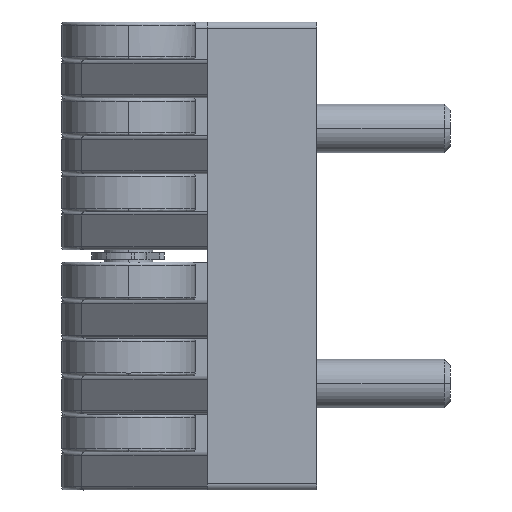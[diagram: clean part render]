
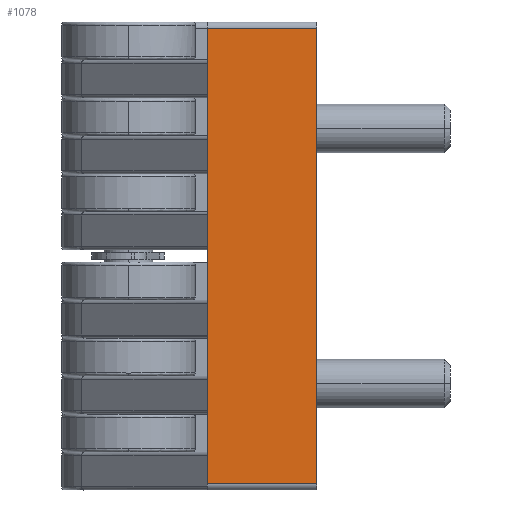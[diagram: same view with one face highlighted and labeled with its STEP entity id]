
A CAD part, left-side view. The second image highlights one B-rep face of the part: STEP entity #1078.
In plain terms, the highlighted planar face has unit normal (-1, 0, 0) as drawn and (1, 0, 0) by its records, which use the part's own axes.
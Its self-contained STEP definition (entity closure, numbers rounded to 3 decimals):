
#1069 = ORIENTED_EDGE ( 'NONE', *, *, #7960, .F. ) ;
#1070 = ORIENTED_EDGE ( 'NONE', *, *, #1122, .T. ) ;
#1074 = EDGE_LOOP ( 'NONE', ( #1069, #1070, #1080, #1142 ) ) ;
#1078 = ADVANCED_FACE ( 'NONE', ( #4516 ), #4499, .F. ) ;
#1079 = EDGE_CURVE ( 'NONE', #8066, #8074, #4443, .T. ) ;
#1080 = ORIENTED_EDGE ( 'NONE', *, *, #8069, .F. ) ;
#1122 = EDGE_CURVE ( 'NONE', #8075, #8085, #4577, .T. ) ;
#1142 = ORIENTED_EDGE ( 'NONE', *, *, #1079, .T. ) ;
#4079 = DIRECTION ( 'NONE',  ( 0., 0., -1. ) ) ;
#4080 = VECTOR ( 'NONE', #4079, 1000. ) ;
#4433 = VECTOR ( 'NONE', #4478, 1000. ) ;
#4434 = CARTESIAN_POINT ( 'NONE',  ( 30., -13., 0. ) ) ;
#4443 = LINE ( 'NONE', #4434, #4433 ) ;
#4478 = DIRECTION ( 'NONE',  ( 0., 0., 1. ) ) ;
#4499 = PLANE ( 'NONE',  #4521 ) ;
#4501 = DIRECTION ( 'NONE',  ( 0., 0., 1. ) ) ;
#4502 = DIRECTION ( 'NONE',  ( -1., 0., 0. ) ) ;
#4503 = CARTESIAN_POINT ( 'NONE',  ( 30., -31., -37.5 ) ) ;
#4516 = FACE_OUTER_BOUND ( 'NONE', #1074, .T. ) ;
#4521 = AXIS2_PLACEMENT_3D ( 'NONE', #4503, #4502, #4501 ) ;
#4571 = CARTESIAN_POINT ( 'NONE',  ( 30., -31., 0. ) ) ;
#4577 = LINE ( 'NONE', #4571, #4080 ) ;
#6469 = DIRECTION ( 'NONE',  ( 0., 1., 0. ) ) ;
#6470 = VECTOR ( 'NONE', #6469, 1000. ) ;
#6525 = CARTESIAN_POINT ( 'NONE',  ( 30., -22., 37.5 ) ) ;
#6527 = LINE ( 'NONE', #6525, #6470 ) ;
#6805 = CARTESIAN_POINT ( 'NONE',  ( 30., -13., -37.5 ) ) ;
#6845 = CARTESIAN_POINT ( 'NONE',  ( 30., -13., 37.5 ) ) ;
#6860 = CARTESIAN_POINT ( 'NONE',  ( 30., -31., 37.5 ) ) ;
#6861 = DIRECTION ( 'NONE',  ( 0., -1., 0. ) ) ;
#6862 = VECTOR ( 'NONE', #6861, 1000. ) ;
#6863 = CARTESIAN_POINT ( 'NONE',  ( 30., -22., -37.5 ) ) ;
#6864 = LINE ( 'NONE', #6863, #6862 ) ;
#6920 = CARTESIAN_POINT ( 'NONE',  ( 30., -31., -37.5 ) ) ;
#7960 = EDGE_CURVE ( 'NONE', #8075, #8074, #6527, .T. ) ;
#8066 = VERTEX_POINT ( 'NONE', #6805 ) ;
#8069 = EDGE_CURVE ( 'NONE', #8066, #8085, #6864, .T. ) ;
#8074 = VERTEX_POINT ( 'NONE', #6845 ) ;
#8075 = VERTEX_POINT ( 'NONE', #6860 ) ;
#8085 = VERTEX_POINT ( 'NONE', #6920 ) ;
